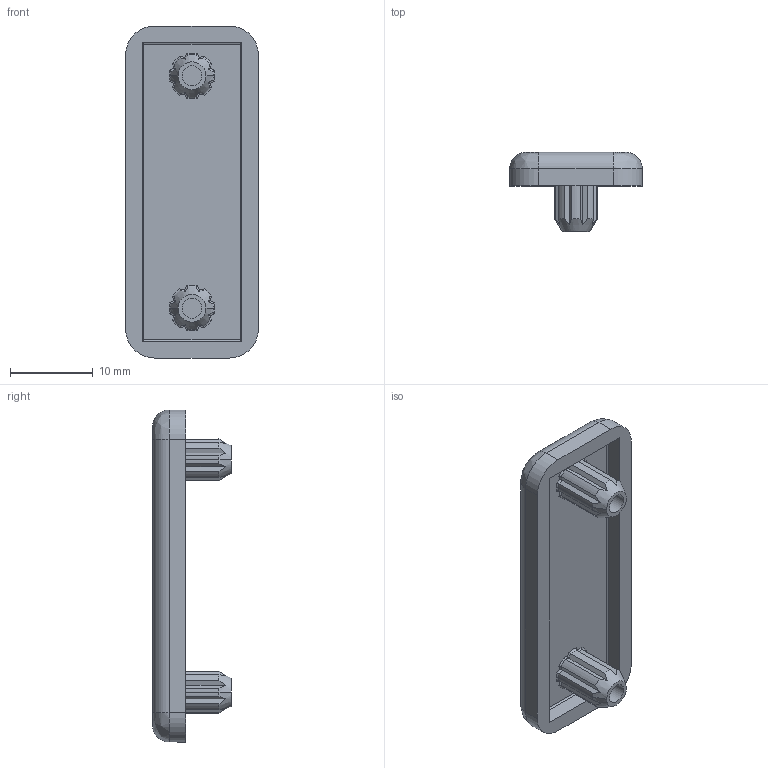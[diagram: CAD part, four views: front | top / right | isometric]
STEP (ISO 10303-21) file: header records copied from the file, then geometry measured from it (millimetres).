
FILE_DESCRIPTION (( 'STEP AP214' ), '1' );
FILE_NAME ('10008_ABD4016.STEP', '2016-12-22T10:14:31', ( '' ), ( '' ), 'SwSTEP 2.0', 'SolidWorks 2016', '' );
FILE_SCHEMA (( 'AUTOMOTIVE_DESIGN' ));
Length unit declared in the file: millimetre
Products named in the file (1): 10008_ABD4016
Bounding box: 16 x 9.5 x 40 mm (x, y, z)
Volume: 1764.6 mm3; surface area: 2127.5 mm2
Topology: 1 solids, 1 shells, 139 faces, 332 edges, 200 vertices
Faces by surface type: cylinder 66, plane 47, bspline 22, cone 4
Entity records: 4630 total; most frequent: CARTESIAN_POINT 1684, ORIENTED_EDGE 664, DIRECTION 530, EDGE_CURVE 332, VERTEX_POINT 200, AXIS2_PLACEMENT_3D 186, LINE 158, VECTOR 158
